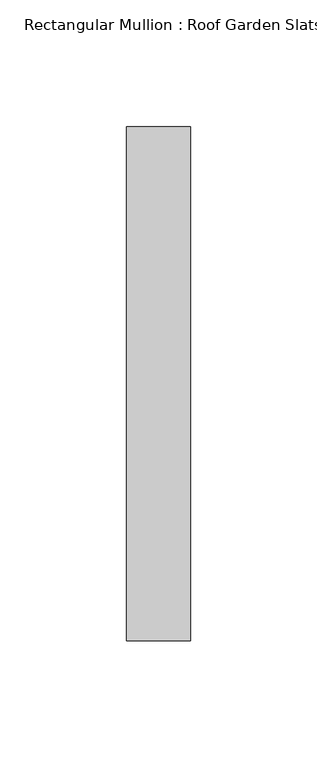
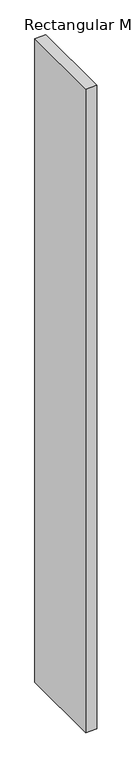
"""IFC4 building model written with IfcOpenShell, lengths in millimetres: member geometry, Rectangular Mullion : Roof Garden Slats."""

import ifcopenshell
import ifcopenshell.guid

model = None  # the IFC model being written
_history = None  # IfcOwnerHistory: only IFC2X3 demands one
_inside = {}  # id of a spatial element -> (the spatial element, [elements in it])
_under = {}  # id of a project, library or spatial element -> (it, [spatial elements below it])
_declared = {}  # id of a project -> (the project, [libraries it declares])
_typed = {}  # id of a type object -> (the type object, [elements of that type])
_made_of = {}  # id of a material, layer set ... -> (it, [elements and type objects made of it])


def new_model(schema):
    """Start an empty IFC model of exactly this schema.

    Asked for "IFC4X3", IfcOpenShell would pick the latest addendum, in which some entities
    have other attributes; the version numbers below select the first issue.
    IFC2X3 requires an IfcOwnerHistory on every rooted entity: one is made here for all.
    """
    global model, _history
    if schema == "IFC4X3":
        model = ifcopenshell.file(schema_version=(4, 3, 0, 0))
    else:
        model = ifcopenshell.file(schema=schema)
    _inside.clear()
    _under.clear()
    _declared.clear()
    _typed.clear()
    _made_of.clear()
    _history = None
    if model.schema == "IFC2X3":
        org = make("IfcOrganization", Name="unknown")
        user = make(
            "IfcPersonAndOrganization",
            ThePerson=make("IfcPerson", FamilyName="unknown"),
            TheOrganization=org,
        )
        app = make(
            "IfcApplication",
            ApplicationDeveloper=org,
            Version="unknown",
            ApplicationFullName="unknown",
            ApplicationIdentifier="unknown",
        )
        _history = make(
            "IfcOwnerHistory",
            OwningUser=user,
            OwningApplication=app,
            ChangeAction="ADDED",
            CreationDate=0,
        )
    return model


def make(cls, **values):
    """One entity of the class cls with the attributes given. An attribute that is None is left unset."""
    return model.create_entity(
        cls, **{name: value for name, value in values.items() if value is not None}
    )


def rooted(cls, **values):
    """An entity with a GlobalId (a new one), such as an element, a storey or a relation."""
    return make(cls, GlobalId=ifcopenshell.guid.new(), OwnerHistory=_history, **values)


def si_unit(unit_type, name, prefix=None):
    """IfcSIUnit, for example si_unit("LENGTHUNIT", "METRE", prefix="MILLI")."""
    return make("IfcSIUnit", UnitType=unit_type, Prefix=prefix, Name=name)


def assignment(units):
    """IfcUnitAssignment: the units of a project."""
    return None if units is None else make("IfcUnitAssignment", Units=units)


def point(xyz):
    """IfcCartesianPoint."""
    return None if xyz is None else make("IfcCartesianPoint", Coordinates=xyz)


def direction(xyz):
    """IfcDirection."""
    return None if xyz is None else make("IfcDirection", DirectionRatios=xyz)


def frame(location, z_axis=None, x_axis=None):
    """IfcAxis2Placement3D, a coordinate frame: its origin and axes. An axis left out is left unset."""
    return make(
        "IfcAxis2Placement3D",
        Location=point(location),
        Axis=direction(z_axis),
        RefDirection=direction(x_axis),
    )


def origin():
    """The frame at (0, 0, 0) with its axes left unset."""
    return frame((0.0, 0.0, 0.0))


def place(relative_to, where):
    """IfcLocalPlacement: puts the frame where relative to a parent placement (None: the world)."""
    return make(
        "IfcLocalPlacement", PlacementRelTo=relative_to, RelativePlacement=where
    )


def context(
    kind, dimensions, precision=None, world=None, true_north=None, identifier=None
):
    """IfcGeometricRepresentationContext, for example the 3D "Model" context."""
    return make(
        "IfcGeometricRepresentationContext",
        ContextIdentifier=identifier,
        ContextType=kind,
        CoordinateSpaceDimension=dimensions,
        Precision=precision,
        WorldCoordinateSystem=world,
        TrueNorth=true_north,
    )


def project(units=None, contexts=None):
    """IfcProject with its units and contexts."""
    return rooted(
        "IfcProject",
        Name="project",
        RepresentationContexts=contexts,
        UnitsInContext=assignment(units),
    )


def spatial(cls, under=None, at=None, **own):
    """A site, building, storey or space (cls), placed at a placement, below another one or the project."""
    s = rooted(cls, ObjectPlacement=at, **own)
    if under is not None:
        _under.setdefault(under.id(), (under, []))[1].append(s)
    return s


def polyline(points):
    """IfcPolyline through the points."""
    return make("IfcPolyline", Points=[point(p) for p in points])


def outline(outer, holes=None, kind="AREA"):
    """IfcArbitraryClosedProfileDef: a profile drawn as a closed curve; with holes, ...WithVoids."""
    if holes is None:
        return make("IfcArbitraryClosedProfileDef", ProfileType=kind, OuterCurve=outer)
    return make(
        "IfcArbitraryProfileDefWithVoids",
        ProfileType=kind,
        OuterCurve=outer,
        InnerCurves=holes,
    )


def extrude(swept, where, along, depth):
    """IfcExtrudedAreaSolid: the profile swept, set in the frame where, extruded along a direction by depth."""
    return make(
        "IfcExtrudedAreaSolid",
        SweptArea=swept,
        Position=where,
        ExtrudedDirection=direction(along),
        Depth=depth,
    )


def shape(context_of_items, identifier, shape_type, items):
    """IfcShapeRepresentation: the items that make up one representation, for example the "Body"."""
    return make(
        "IfcShapeRepresentation",
        ContextOfItems=context_of_items,
        RepresentationIdentifier=identifier,
        RepresentationType=shape_type,
        Items=items,
    )


def source(mapping_origin, context_of_items, identifier, shape_type, items):
    """IfcRepresentationMap: a shape defined once, which mapped items show again and again."""
    return make(
        "IfcRepresentationMap",
        MappingOrigin=mapping_origin,
        MappedRepresentation=shape(context_of_items, identifier, shape_type, items),
    )


def transform(
    local_origin,
    x_axis=None,
    y_axis=None,
    z_axis=None,
    scale=None,
    scale2=None,
    scale3=None,
    uniform=True,
):
    """IfcCartesianTransformationOperator3D, or its non-uniform kind. x_axis, y_axis, z_axis: its Axis1, 2, 3."""
    if uniform:
        return make(
            "IfcCartesianTransformationOperator3D",
            Axis1=direction(x_axis),
            Axis2=direction(y_axis),
            LocalOrigin=point(local_origin),
            Scale=scale,
            Axis3=direction(z_axis),
        )
    return make(
        "IfcCartesianTransformationOperator3DnonUniform",
        Axis1=direction(x_axis),
        Axis2=direction(y_axis),
        LocalOrigin=point(local_origin),
        Scale=scale,
        Axis3=direction(z_axis),
        Scale2=scale2,
        Scale3=scale3,
    )


def mapped(mapping_source, mapping_target):
    """IfcMappedItem: shows the shape of a source again, moved by a transform."""
    return make(
        "IfcMappedItem", MappingSource=mapping_source, MappingTarget=mapping_target
    )


def made_of(thing, what):
    """Note that an element or type object is made of a material, layer set ...; save() writes the relation."""
    if what is not None:
        _made_of.setdefault(what.id(), (what, []))[1].append(thing)
    return thing


def element(
    cls,
    number,
    at=None,
    inside=None,
    cuts=None,
    type_object=None,
    material=None,
    context=None,
    identifier="Body",
    shape_type=None,
    held_by="IfcProductDefinitionShape",
    body=None,
    shapes=None,
    **own,
):
    """One element of the class cls, such as IfcWall. Its Tag is "e" and its number.

    at: its placement. inside: the storey or other place that contains it. cuts: it is an
    opening in that element (IfcRelVoidsElement). A single representation is given by context,
    identifier, shape_type and body (its items); several are given by shapes. held_by: the class
    of the entity that holds the representations. save() writes the other relations.
    """
    e = rooted(cls, Tag="e%d" % number, ObjectPlacement=at, **own)
    if body is not None:
        shapes = [shape(context, identifier, shape_type, body)]
    if shapes is not None:
        e.Representation = make(held_by, Representations=shapes)
    if inside is not None:
        _inside.setdefault(inside.id(), (inside, []))[1].append(e)
    if cuts is not None:
        rooted(
            "IfcRelVoidsElement", RelatingBuildingElement=cuts, RelatedOpeningElement=e
        )
    if type_object is not None:
        _typed.setdefault(type_object.id(), (type_object, []))[1].append(e)
    return made_of(e, material)


def aggregate(whole, parts):
    """IfcRelAggregates: a whole, such as a stair, and the parts it consists of."""
    return rooted("IfcRelAggregates", RelatingObject=whole, RelatedObjects=parts)


def save(model, path):
    """Write the relations noted so far, then the file.

    IfcRelAggregates (storeys below a building ...), IfcRelContainedInSpatialStructure (elements
    in a storey), IfcRelDefinesByType, IfcRelAssociatesMaterial and IfcRelDeclares: one each for
    every whole, place, type object, material and project.
    """
    for whole, parts in _under.values():
        aggregate(whole, parts)
    for where, things in _inside.values():
        rooted(
            "IfcRelContainedInSpatialStructure",
            RelatedElements=things,
            RelatingStructure=where,
        )
    for kind, things in _typed.values():
        rooted("IfcRelDefinesByType", RelatedObjects=things, RelatingType=kind)
    for what, things in _made_of.values():
        rooted("IfcRelAssociatesMaterial", RelatedObjects=things, RelatingMaterial=what)
    for by, libraries in _declared.values():
        rooted("IfcRelDeclares", RelatingContext=by, RelatedDefinitions=libraries)
    model.write(path)


def rectangular_mullion_roof_garden_slats_7c842619(model_context):
    return source(origin(), model_context, "Body", "SweptSolid", [
        extrude(outline(polyline([(12.7, 139.7), (12.7, -63.5), (-12.7, -63.5), (-12.7, 139.7), (12.7, 139.7)])), frame((0.0, 0.0, -1570.8879148), z_axis=(0.0, 0.0, 1.0), x_axis=(1.0, 0.0, 0.0)), (0.0, 0.0, 1.0), 1570.8879148),
    ])


if __name__ == "__main__":
    model = new_model("IFC4")
    model_context = context("Model", 3, world=origin())
    ifc_project = project(units=[si_unit("LENGTHUNIT", "METRE", prefix="MILLI")], contexts=[model_context])
    site = spatial("IfcSite", under=ifc_project)
    building = spatial("IfcBuilding", under=site)
    placement = place(None, origin())
    rectangular_mullion_roof_garden_slats_shape = rectangular_mullion_roof_garden_slats_7c842619(model_context)
    element("IfcMember", 1, ObjectType="Rectangular Mullion : Roof Garden Slats", at=placement, inside=building, context=model_context, shape_type="MappedRepresentation", body=[
        mapped(rectangular_mullion_roof_garden_slats_shape, transform((0.0, 0.0, 0.0), x_axis=(1.0, 0.0, 0.0), y_axis=(0.0, 1.0, 0.0), z_axis=(0.0, 0.0, 1.0))),
    ])
    save(model, "model.ifc")
